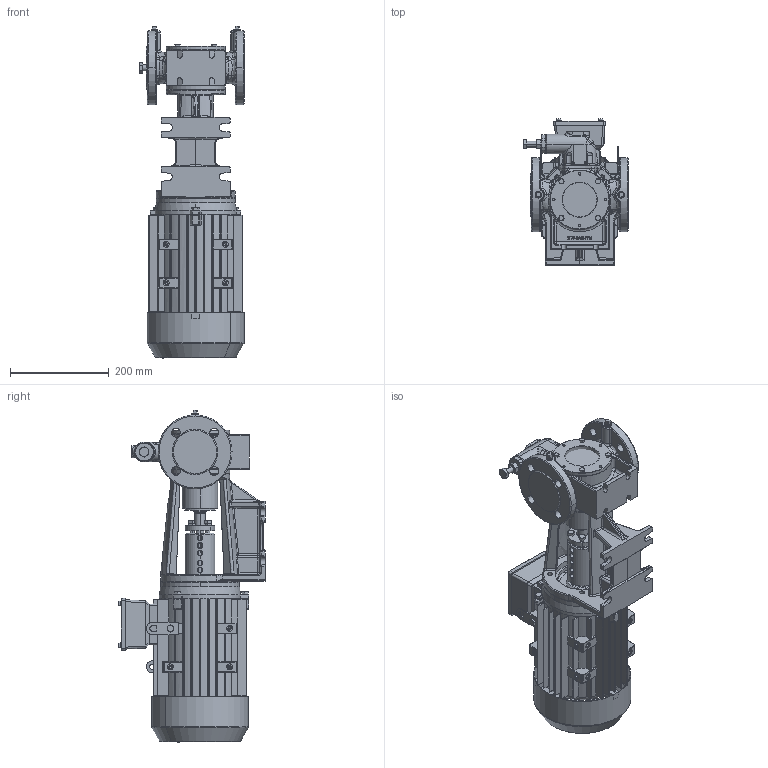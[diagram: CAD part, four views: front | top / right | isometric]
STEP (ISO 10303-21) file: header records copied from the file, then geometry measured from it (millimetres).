
FILE_DESCRIPTION((''),'2;1');
FILE_NAME('GP41EFM_ASM','2020-02-24T',('erya'),(''),'PRO/ENGINEER BY PARAMETRIC TECHNOLOGY CORPORATION, 2017170','PRO/ENGINEER BY PARAMETRIC TECHNOLOGY CORPORATION, 2017170','');
FILE_SCHEMA(('CONFIG_CONTROL_DESIGN'));
Products named in the file (25): 1041-001AA225; 1041-002AA342; 1041-003DF225; 1041-021BD017; 3213-025CA; 704000; 1041-020BA050; 0050-160CA225; 0016-028EC200; 0025-016CA050; 700305; 700304; 0051-024BA225; 2348578; 1022-042AA200; 1022-046AA081; 1022-045AA030; 1026-043AA070_AF0; 1022-036AA904; 1022-049AB020; 760279; 8304-BYPASS_ASM; 848106; 700298; GP41EFM_ASM
Assembly tree (35 placements, depth 3):
  GP41EFM_ASM
    1041-001AA225
    1041-002AA342
    1041-003DF225
    1041-021BD017
    3213-025CA
    704000  x2
    1041-020BA050
    0050-160CA225
    0016-028EC200
    0025-016CA050
    700305  x2
    700304  x2
    8304-BYPASS_ASM
      0051-024BA225
      2348578  x2
      1022-042AA200
      1022-046AA081
      1022-045AA030
      1026-043AA070_AF0
      1022-036AA904
      1022-049AB020
      760279
    848106
    700298  x8
Bounding box: 215 x 296.5 x 673.5 mm (x, y, z)
Volume: 10023966.6 mm3; surface area: 1155115.4 mm2
Topology: 34 solids, 36 shells, 3809 faces, 9792 edges, 6088 vertices
Faces by surface type: plane 1781, cylinder 879, bspline 577, cone 432, torus 99, sphere 41
Entity records: 153579 total; most frequent: CARTESIAN_POINT 69033, ORIENTED_EDGE 18404, DIRECTION 15941, EDGE_CURVE 9202, VERTEX_POINT 5776, AXIS2_PLACEMENT_3D 5336, VECTOR 5269, LINE 5269
